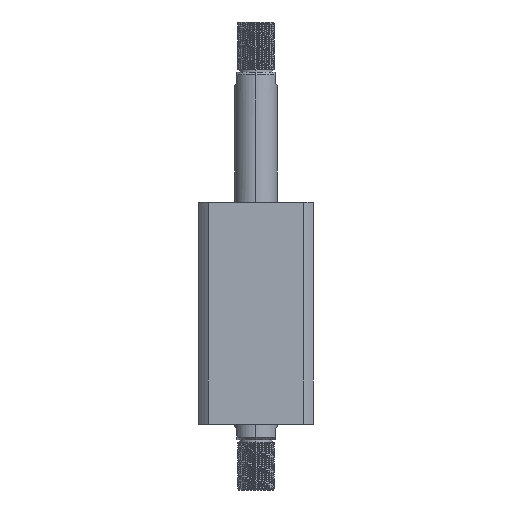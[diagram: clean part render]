
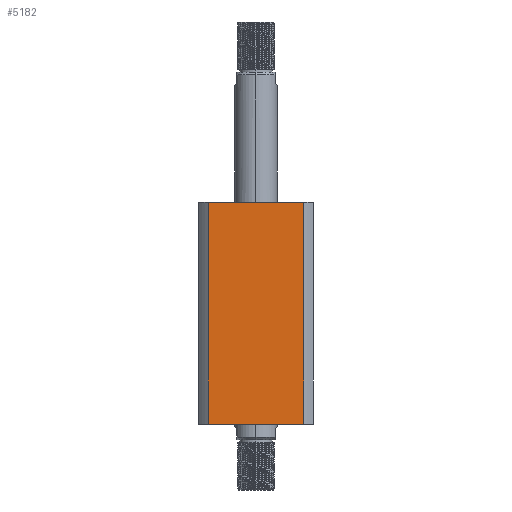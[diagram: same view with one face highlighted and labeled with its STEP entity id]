
A CAD part, left-side view. The second image highlights one B-rep face of the part: STEP entity #5182.
In plain terms, the highlighted planar face has unit normal (-1, 0, 0).
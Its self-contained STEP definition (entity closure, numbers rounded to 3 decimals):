
#785 = DIRECTION ( 'NONE',  ( 0., 0., -1. ) ) ;
#855 = ORIENTED_EDGE ( 'NONE', *, *, #12412, .T. ) ;
#1886 = LINE ( 'NONE', #13127, #16373 ) ;
#2106 = EDGE_CURVE ( 'NONE', #3476, #3951, #15605, .T. ) ;
#3476 = VERTEX_POINT ( 'NONE', #4929 ) ;
#3632 = PLANE ( 'NONE',  #14535 ) ;
#3951 = VERTEX_POINT ( 'NONE', #12509 ) ;
#4115 = VECTOR ( 'NONE', #13946, 1000. ) ;
#4481 = CARTESIAN_POINT ( 'NONE',  ( -40., 33.226, 77.5 ) ) ;
#4669 = CARTESIAN_POINT ( 'NONE',  ( -40., 33.226, -77.5 ) ) ;
#4929 = CARTESIAN_POINT ( 'NONE',  ( -40., 33.226, 77.5 ) ) ;
#5166 = DIRECTION ( 'NONE',  ( 0., 1., 0. ) ) ;
#5182 = ADVANCED_FACE ( 'NONE', ( #16282 ), #3632, .F. ) ;
#6073 = EDGE_LOOP ( 'NONE', ( #14799, #13629, #7131, #855 ) ) ;
#6419 = CARTESIAN_POINT ( 'NONE',  ( -40., -33.226, 77.5 ) ) ;
#6691 = DIRECTION ( 'NONE',  ( 1., 0., 0. ) ) ;
#7131 = ORIENTED_EDGE ( 'NONE', *, *, #2106, .F. ) ;
#7392 = CARTESIAN_POINT ( 'NONE',  ( -40., 33.226, 77.5 ) ) ;
#8199 = VERTEX_POINT ( 'NONE', #13790 ) ;
#9488 = LINE ( 'NONE', #17051, #10773 ) ;
#10773 = VECTOR ( 'NONE', #785, 1000. ) ;
#11478 = VECTOR ( 'NONE', #14958, 1000. ) ;
#11761 = DIRECTION ( 'NONE',  ( 0., -1., 0. ) ) ;
#12412 = EDGE_CURVE ( 'NONE', #3476, #14463, #9488, .T. ) ;
#12509 = CARTESIAN_POINT ( 'NONE',  ( -40., -33.226, 77.5 ) ) ;
#13127 = CARTESIAN_POINT ( 'NONE',  ( -40., 33.226, -77.5 ) ) ;
#13572 = LINE ( 'NONE', #6419, #11478 ) ;
#13629 = ORIENTED_EDGE ( 'NONE', *, *, #17613, .F. ) ;
#13790 = CARTESIAN_POINT ( 'NONE',  ( -40., -33.226, -77.5 ) ) ;
#13946 = DIRECTION ( 'NONE',  ( 0., -1., 0. ) ) ;
#14463 = VERTEX_POINT ( 'NONE', #4669 ) ;
#14535 = AXIS2_PLACEMENT_3D ( 'NONE', #7392, #6691, #5166 ) ;
#14552 = EDGE_CURVE ( 'NONE', #14463, #8199, #1886, .T. ) ;
#14799 = ORIENTED_EDGE ( 'NONE', *, *, #14552, .T. ) ;
#14958 = DIRECTION ( 'NONE',  ( 0., 0., -1. ) ) ;
#15605 = LINE ( 'NONE', #4481, #4115 ) ;
#16282 = FACE_OUTER_BOUND ( 'NONE', #6073, .T. ) ;
#16373 = VECTOR ( 'NONE', #11761, 1000. ) ;
#17051 = CARTESIAN_POINT ( 'NONE',  ( -40., 33.226, 77.5 ) ) ;
#17613 = EDGE_CURVE ( 'NONE', #3951, #8199, #13572, .T. ) ;
